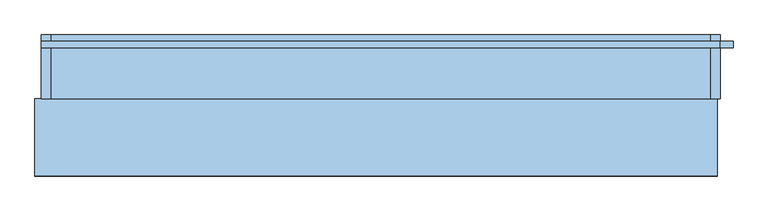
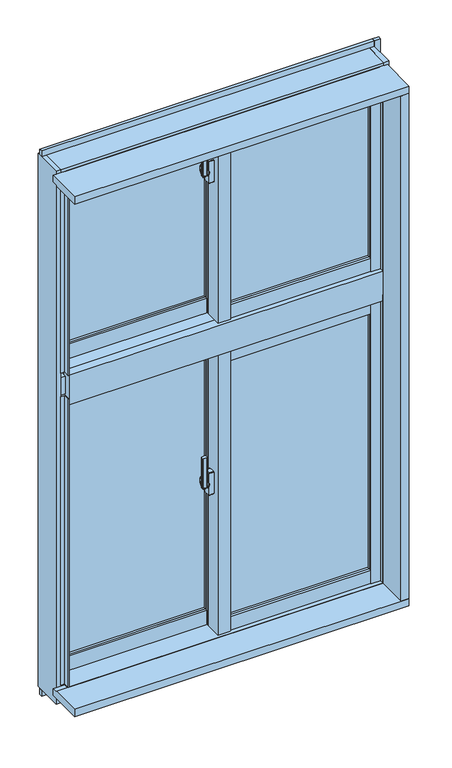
"""IFC4 building model written with IfcOpenShell, lengths in millimetres: window geometry, FNSⅡ100R_非防火_面付枠_段窓 : たてすべりだし/FIX."""

from ifc_helpers import new_model, si_unit, point, frame, frame_2d, origin, place, context, project, spatial, polyline, circle_curve, trimmed, segment, composite_curve, outline, extrude, faceted_brep, source, transform, mapped, element, save
from ifc_brep_helpers import plane_surface, cylinder_surface, revolved_surface, advanced_brep


def window_0b9b19ba(model_context):
    return source(origin(), model_context, "Body", "SolidModel", [
        extrude(outline(composite_curve([segment(polyline([(-39.0, 34.6), (-39.0, 26.4)]), True, "CONTINUOUS"), segment(trimmed(circle_curve(frame_2d((-41.0, 26.4)), 2.0), [point((-39.0, 26.4))], [point((-41.3606557, 24.4327869))], False, "CARTESIAN"), True, "CONTINUOUS"), segment(polyline([(-41.3606557, 24.4327869), (-52.3606557, 26.4494536)]), True, "CONTINUOUS"), segment(trimmed(circle_curve(frame_2d((-52.0, 28.4166667)), 2.0), [point((-52.3606557, 26.4494536))], [point((-54.0, 28.4166667))], False, "CARTESIAN"), True, "CONTINUOUS"), segment(polyline([(-54.0, 28.4166667), (-54.0, 32.5833333)]), True, "CONTINUOUS"), segment(trimmed(circle_curve(frame_2d((-52.0, 32.5833333)), 2.0), [point((-54.0, 32.5833333))], [point((-52.3606557, 34.5505464))], False, "CARTESIAN"), True, "CONTINUOUS"), segment(polyline([(-52.3606557, 34.5505464), (-41.3606557, 36.5672131)]), True, "CONTINUOUS"), segment(trimmed(circle_curve(frame_2d((-41.0, 34.6)), 2.0), [point((-41.3606557, 36.5672131))], [point((-39.0, 34.6))], False, "CARTESIAN"), True, "CONTINUOUS")], self_intersect=False)), frame((0.0, 0.0, 2440.0), z_axis=(0.0, 0.0, 1.0), x_axis=(1.0, 0.0, 0.0)), (0.0, 0.0, 1.0), 100.0),
        advanced_brep(
        [(-37.5, 38.8234285, 2471.7333311), (-45.5, 38.8234285, 2471.7333311), (-45.5, 38.4351999, 2470.2844424), (-39.0, 38.4351999, 2470.2844424), (-39.0, 36.6234666, 2463.5229616), (-37.5, 36.6234666, 2463.5229616), (-39.0, 36.6466117, 2429.3190372), (-45.5, 36.6466117, 2429.3190372), (-45.5, 36.907084, 2427.8418256), (-37.5, 36.907084, 2427.8418256), (-37.5, 35.4310745, 2436.2126915), (-39.0, 35.4310745, 2436.2126915)],
        [
            (0, 1),
            (1, 2),
            (2, 3),
            (3, 4),
            (4, 5),
            (5, 0),
            (6, 7),
            (7, 8),
            (8, 9),
            (9, 10),
            (10, 11),
            (11, 6),
            (0, 9, circle_curve(frame((-37.5, 33.0, 2450.0), z_axis=(-1.0, 0.0, 0.0), x_axis=(0.0, 0.25881904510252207, 0.965925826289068)), 22.5)),
            (8, 1, circle_curve(frame((-45.5, 33.0, 2450.0), z_axis=(1.0, 0.0, 0.0), x_axis=(0.0, 0.25881904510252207, 0.965925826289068)), 22.5)),
            (7, 2, circle_curve(frame((-45.5, 33.0, 2450.0), z_axis=(1.0, 0.0, 0.0), x_axis=(0.0, 0.25881904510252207, 0.965925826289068)), 21.0)),
            (6, 3, circle_curve(frame((-39.0, 33.0, 2450.0), z_axis=(1.0, 0.0, 0.0), x_axis=(0.0, 0.25881904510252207, 0.965925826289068)), 21.0)),
            (11, 4, circle_curve(frame((-39.0, 33.0, 2450.0), z_axis=(-1.0, 0.0, 0.0), x_axis=(0.0, -1.0, 0.0)), 14.0)),
            (5, 10, circle_curve(frame((-37.5, 33.0, 2450.0), z_axis=(1.0, 0.0, 0.0), x_axis=(0.0, -1.0, 0.0)), 14.0)),
        ],
        [
            plane_surface(frame((-43.5470497, 33.0, 2450.0), z_axis=(0.0, -0.965925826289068, 0.25881904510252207), x_axis=(0.0, 0.25881904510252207, 0.965925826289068))),
            plane_surface(frame((-43.5470497, 33.0, 2450.0), z_axis=(0.0, -0.9848077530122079, -0.17364817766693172), x_axis=(0.0, 0.17364817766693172, -0.9848077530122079))),
            cylinder_surface(frame((-43.5470497, 33.0, 2450.0), z_axis=(-1.0, 0.0, 0.0), x_axis=(0.0, 0.25881904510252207, 0.965925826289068)), 22.5),
            plane_surface(frame((-45.5, 33.0, 2450.0), z_axis=(-1.0, 0.0, 0.0), x_axis=(0.0, 0.25881904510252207, 0.965925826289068))),
            revolved_surface(polyline([(-45.5, 38.43519994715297, 2470.2844423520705), (-39.0, 38.43519994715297, 2470.2844423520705)]), (-43.5470497, 33.0, 2450.0), (-1.0, 0.0, 0.0)),
            plane_surface(frame((-39.0, 33.0, 2450.0), z_axis=(-1.0, 0.0, 0.0), x_axis=(0.0, 0.25881904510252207, 0.965925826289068))),
            plane_surface(frame((-37.5, 33.0, 2450.0), z_axis=(1.0, 0.0, 0.0), x_axis=(0.0, 0.25881904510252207, 0.965925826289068))),
            cylinder_surface(frame((-37.5, 33.0, 2450.0), z_axis=(-1.0, 0.0, 0.0), x_axis=(0.0, -1.0, 0.0)), 14.0),
        ],
        [
            (0, [[1, 2, 3, 4, 5, 6]]),
            (1, [[7, 8, 9, 10, 11, 12]]),
            (2, [[-1, 13, -9, 14]]),
            (3, [[-2, -14, -8, 15]]),
            (4, [[-3, -15, -7, 16]]),
            (5, [[-16, -12, 17, -4]]),
            (6, [[-13, -6, 18, -10]]),
            (7, [[-17, -11, -18, -5]]),
        ],
    ),
        extrude(outline(composite_curve([segment(trimmed(circle_curve(frame_2d((33.0, 2450.0)), 11.5), [point((44.5, 2450.0))], [point((21.5, 2450.0))], False, "CARTESIAN"), True, "CONTINUOUS"), segment(trimmed(circle_curve(frame_2d((33.0, 2450.0)), 11.5), [point((21.5, 2450.0))], [point((44.5, 2450.0))], False, "CARTESIAN"), True, "CONTINUOUS")], self_intersect=False)), frame((-37.5, 0.0, 0.0), z_axis=(1.0, 0.0, 0.0), x_axis=(0.0, 1.0, 0.0)), (0.0, 0.0, 1.0), 2.5),
        extrude(outline(composite_curve([segment(polyline([(24.0, 2487.5), (42.0, 2487.5)]), True, "CONTINUOUS"), segment(trimmed(circle_curve(frame_2d((42.0, 2485.5)), 2.0), [point((42.0, 2487.5))], [point((44.0, 2485.5))], False, "CARTESIAN"), True, "CONTINUOUS"), segment(polyline([(44.0, 2485.5), (44.0, 2414.5)]), True, "CONTINUOUS"), segment(trimmed(circle_curve(frame_2d((42.0, 2414.5)), 2.0), [point((44.0, 2414.5))], [point((42.0, 2412.5))], False, "CARTESIAN"), True, "CONTINUOUS"), segment(polyline([(42.0, 2412.5), (24.0, 2412.5)]), True, "CONTINUOUS"), segment(trimmed(circle_curve(frame_2d((24.0, 2414.5)), 2.0), [point((24.0, 2412.5))], [point((22.0, 2414.5))], False, "CARTESIAN"), True, "CONTINUOUS"), segment(polyline([(22.0, 2414.5), (22.0, 2485.5)]), True, "CONTINUOUS"), segment(trimmed(circle_curve(frame_2d((24.0, 2485.5)), 2.0), [point((22.0, 2485.5))], [point((24.0, 2487.5))], False, "CARTESIAN"), True, "CONTINUOUS")], self_intersect=False)), frame((-35.0, 0.0, 0.0), z_axis=(1.0, 0.0, 0.0), x_axis=(0.0, 1.0, 0.0)), (0.0, 0.0, 1.0), 15.0),
        extrude(outline(polyline([(20.0, 24.0), (468.0, 24.0), (468.0, 18.0), (20.0, 18.0), (20.0, 24.0)])), frame((0.0, 0.0, 1998.0), z_axis=(0.0, 0.0, 1.0), x_axis=(1.0, 0.0, 0.0)), (0.0, 0.0, 1.0), 562.0),
        extrude(outline(polyline([(20.0, 42.0), (468.0, 42.0), (468.0, 36.0), (20.0, 36.0), (20.0, 42.0)])), frame((0.0, 0.0, 1998.0), z_axis=(0.0, 0.0, 1.0), x_axis=(1.0, 0.0, 0.0)), (0.0, 0.0, 1.0), 562.0),
        extrude(outline(polyline([(-468.0, 82.0), (-20.0, 82.0), (-20.0, 76.0), (-468.0, 76.0), (-468.0, 82.0)])), frame((0.0, 0.0, 1998.0), z_axis=(0.0, 0.0, 1.0), x_axis=(1.0, 0.0, 0.0)), (0.0, 0.0, 1.0), 562.0),
        extrude(outline(polyline([(-468.0, 100.0), (-20.0, 100.0), (-20.0, 94.0), (-468.0, 94.0), (-468.0, 100.0)])), frame((0.0, 0.0, 1998.0), z_axis=(0.0, 0.0, 1.0), x_axis=(1.0, 0.0, 0.0)), (0.0, 0.0, 1.0), 562.0),
        faceted_brep([(-500.0, 79.0, 2600.0), (-489.5, 79.0, 2600.0), (-489.5, 66.0, 2600.0), (-468.0, 66.0, 2600.0), (-468.0, 108.0, 2600.0), (-500.0, 108.0, 2600.0), (-468.0, 79.0, 1910.0), (-500.0, 79.0, 1910.0), (-500.0, 108.0, 1910.0), (-468.0, 108.0, 1910.0), (-468.0, 79.0, 1950.0), (-489.5, 79.0, 1950.0), (-489.5, 66.0, 1950.0), (-468.0, 66.0, 1950.0)], [[[0, 1, 2, 3, 4, 5]], [[6, 7, 8, 9]], [[1, 0, 7, 6, 10, 11]], [[2, 1, 11, 12]], [[3, 2, 12, 13]], [[4, 3, 13, 10, 6, 9]], [[5, 4, 9, 8]], [[7, 0, 5, 8]], [[11, 10, 13, 12]]]),
        faceted_brep([(-20.0, 65.5, 2600.0), (-1.8, 65.5, 2600.0), (-1.8, 53.1, 2600.0), (20.0, 53.1, 2600.0), (20.0, 108.0, 2600.0), (-20.0, 108.0, 2600.0), (-20.0, 108.0, 1910.0), (20.0, 108.0, 1910.0), (20.0, 79.0, 1910.0), (-20.0, 79.0, 1910.0), (-20.0, 65.5, 1950.0), (-1.8, 65.5, 1950.0), (-1.8, 53.1, 1950.0), (20.0, 53.1, 1950.0), (20.0, 79.0, 1950.0), (-20.0, 79.0, 1950.0)], [[[0, 1, 2, 3, 4, 5]], [[6, 7, 8, 9]], [[1, 0, 10, 11]], [[2, 1, 11, 12]], [[3, 2, 12, 13]], [[4, 3, 13, 14, 8, 7]], [[5, 4, 7, 6]], [[0, 5, 6, 9, 15, 10]], [[14, 15, 9, 8]], [[15, 14, 13, 12, 11, 10]]]),
        extrude(outline(polyline([(-20.0, 53.1), (-15.0, 53.1), (-15.0, 8.0), (15.0, 8.0), (15.0, 12.0), (20.0, 12.0), (20.0, 0.0), (-20.0, 0.0), (-20.0, 53.1)])), frame((0.0, 0.0, 1950.0), z_axis=(0.0, 0.0, 1.0), x_axis=(1.0, 0.0, 0.0)), (0.0, 0.0, 1.0), 650.0),
        extrude(outline(polyline([(-15.0, 53.1), (20.0, 53.1), (20.0, 12.0), (15.0, 12.0), (15.0, 8.0), (-15.0, 8.0), (-15.0, 53.1)])), frame((0.0, 0.0, 1950.0), z_axis=(0.0, 0.0, 1.0), x_axis=(1.0, 0.0, 0.0)), (0.0, 0.0, 1.0), 650.0),
        extrude(outline(polyline([(468.0, 0.0), (468.0, 8.0), (489.5, 8.0), (489.5, 21.0), (497.0, 21.0), (497.0, 0.0), (468.0, 0.0)])), frame((0.0, 0.0, 1953.0), z_axis=(0.0, 0.0, 1.0), x_axis=(1.0, 0.0, 0.0)), (0.0, 0.0, 1.0), 647.0),
        extrude(outline(polyline([(468.0, 50.0), (500.0, 50.0), (500.0, 21.0), (489.5, 21.0), (489.5, 8.0), (468.0, 8.0), (468.0, 50.0)])), frame((0.0, 0.0, 1950.0), z_axis=(0.0, 0.0, 1.0), x_axis=(1.0, 0.0, 0.0)), (0.0, 0.0, 1.0), 650.0),
        extrude(outline(polyline([(-1.85, 65.5), (-1.85, 58.0), (-20.0, 58.0), (-20.0, 65.5), (-1.85, 65.5)])), frame((0.0, 0.0, 1950.0), z_axis=(0.0, 0.0, 1.0), x_axis=(1.0, 0.0, 0.0)), (0.0, 0.0, 1.0), 650.0),
        extrude(outline(polyline([(-497.0, 79.0), (-489.5, 79.0), (-489.5, 66.0), (-468.0, 66.0), (-468.0, 58.0), (-497.0, 58.0), (-497.0, 79.0)])), frame((0.0, 0.0, 1950.0), z_axis=(0.0, 0.0, 1.0), x_axis=(1.0, 0.0, 0.0)), (0.0, 0.0, 1.0), 650.0),
        extrude(outline(polyline([(2.0, 1953.0), (2.0, 1998.0), (10.0, 1998.0), (10.0, 1975.5), (21.0, 1975.5), (21.0, 1953.0), (2.0, 1953.0)])), frame((20.0, 0.0, 0.0), z_axis=(1.0, 0.0, 0.0), x_axis=(0.0, 1.0, 0.0)), (0.0, 0.0, 1.0), 448.0),
        extrude(outline(polyline([(50.0, 1950.0), (21.0, 1950.0), (21.0, 1975.5), (10.0, 1975.5), (10.0, 1998.0), (50.0, 1998.0), (50.0, 1950.0)])), frame((20.0, 0.0, 0.0), z_axis=(1.0, 0.0, 0.0), x_axis=(0.0, 1.0, 0.0)), (0.0, 0.0, 1.0), 448.0),
        extrude(outline(polyline([(60.0, 1998.0), (68.0, 1998.0), (68.0, 1975.5), (79.0, 1975.5), (79.0, 1950.0), (60.0, 1950.0), (60.0, 1998.0)])), frame((-468.0, 0.0, 0.0), z_axis=(1.0, 0.0, 0.0), x_axis=(0.0, 1.0, 0.0)), (0.0, 0.0, 1.0), 448.0),
        extrude(outline(polyline([(108.0, 1910.0), (79.0, 1910.0), (79.0, 1975.5), (68.0, 1975.5), (68.0, 1998.0), (108.0, 1998.0), (108.0, 1910.0)])), frame((-468.0, 0.0, 0.0), z_axis=(1.0, 0.0, 0.0), x_axis=(0.0, 1.0, 0.0)), (0.0, 0.0, 1.0), 448.0),
        extrude(outline(polyline([(23.0, 2580.5), (10.0, 2580.5), (10.0, 2560.0), (2.0, 2560.0), (2.0, 2600.0), (23.0, 2600.0), (23.0, 2580.5)])), frame((20.0, 0.0, 0.0), z_axis=(1.0, 0.0, 0.0), x_axis=(0.0, 1.0, 0.0)), (0.0, 0.0, 1.0), 448.0),
        extrude(outline(polyline([(50.0, 2600.0), (50.0, 2560.0), (10.0, 2560.0), (10.0, 2580.5), (23.0, 2580.5), (23.0, 2600.0), (50.0, 2600.0)])), frame((20.0, 0.0, 0.0), z_axis=(1.0, 0.0, 0.0), x_axis=(0.0, 1.0, 0.0)), (0.0, 0.0, 1.0), 448.0),
        extrude(outline(polyline([(81.0, 2580.5), (68.0, 2580.5), (68.0, 2560.0), (60.0, 2560.0), (60.0, 2600.0), (81.0, 2600.0), (81.0, 2580.5)])), frame((-468.0, 0.0, 0.0), z_axis=(1.0, 0.0, 0.0), x_axis=(0.0, 1.0, 0.0)), (0.0, 0.0, 1.0), 448.0),
        extrude(outline(polyline([(108.0, 2600.0), (108.0, 2560.0), (68.0, 2560.0), (68.0, 2580.5), (81.0, 2580.5), (81.0, 2600.0), (108.0, 2600.0)])), frame((-468.0, 0.0, 0.0), z_axis=(1.0, 0.0, 0.0), x_axis=(0.0, 1.0, 0.0)), (0.0, 0.0, 1.0), 448.0),
        faceted_brep([(500.0, -10.0, 900.0), (500.0, 14.5, 900.0), (515.0, 14.5, 900.0), (515.0, 10.0, 900.0), (503.0, 10.0, 900.0), (503.0, -10.0, 900.0), (515.0, 14.5, 1870.0), (515.0, 10.0, 1870.0), (500.0, -10.0, 1870.0), (500.0, 14.5, 1870.0), (503.0, 10.0, 1870.0), (503.0, -10.0, 1870.0)], [[[0, 1, 2, 3, 4, 5]], [[3, 2, 6, 7]], [[1, 0, 8, 9]], [[2, 1, 9, 6]], [[4, 3, 7, 10]], [[5, 4, 10, 11]], [[0, 5, 11, 8]], [[8, 11, 10, 7, 6, 9]]]),
        faceted_brep([(515.0, 14.5, 2620.0), (515.0, 10.0, 2620.0), (515.0, 10.0, 1950.0), (515.0, 14.5, 1950.0), (503.0, -10.0, 1950.0), (500.0, -10.0, 1950.0), (500.0, 14.5, 1950.0), (503.0, 10.0, 1950.0), (500.0, 10.0, 2620.0), (500.0, 14.5, 2620.0), (500.0, -10.0, 2603.0), (500.0, 10.0, 2603.0), (503.0, 10.0, 2603.0), (503.0, -10.0, 2603.0)], [[[0, 1, 2, 3]], [[4, 5, 6, 3, 2, 7]], [[8, 9, 6, 5, 10, 11]], [[9, 0, 3, 6]], [[11, 12, 7, 2, 1, 8]], [[12, 13, 4, 7]], [[13, 10, 5, 4]], [[1, 0, 9, 8]], [[12, 11, 10, 13]]]),
        faceted_brep([(515.0, 110.0, 840.0), (515.0, 110.0, 849.0), (515.0, 76.0, 849.0), (515.0, 76.0, 884.0), (515.0, 10.0, 884.0), (515.0, 10.0, 840.0), (-515.0, 110.0, 840.0), (-515.0, 10.0, 840.0), (-515.0, 10.0, 884.0), (-515.0, 76.0, 884.0), (-515.0, 76.0, 849.0), (-515.0, 110.0, 849.0), (500.0, 37.25, 884.0), (500.0, 18.8, 884.0), (-15.0, 18.8, 884.0), (-15.0, 37.25, 884.0), (500.0, 18.8, 900.0), (500.0, 37.25, 900.0), (-15.0, 18.8, 900.0), (-15.0, 37.25, 900.0)], [[[0, 1, 2, 3, 4, 5]], [[6, 7, 8, 9, 10, 11]], [[1, 0, 6, 11]], [[2, 1, 11, 10]], [[3, 2, 10, 9]], [[4, 3, 9, 8], [12, 13, 14, 15]], [[5, 4, 8, 7]], [[0, 5, 7, 6]], [[16, 13, 12, 17]], [[13, 16, 18, 14]], [[18, 19, 15, 14]], [[17, 12, 15, 19]], [[16, 17, 19, 18]]]),
        faceted_brep([(500.0, 37.25, 1950.0), (500.0, 37.25, 1934.0), (-15.0, 37.25, 1934.0), (-15.0, 37.25, 1950.0), (500.0, 18.8, 1950.0), (500.0, 18.8, 1934.0), (-15.0, 18.8, 1950.0), (-15.0, 18.8, 1934.0)], [[[0, 1, 2, 3]], [[4, 5, 1, 0]], [[6, 3, 2, 7]], [[5, 4, 6, 7]], [[1, 5, 7, 2]], [[4, 0, 3, 6]]]),
        faceted_brep([(-500.0, -10.0, 900.0), (-500.0, 76.0, 900.0), (-500.0, 76.0, 1870.0), (-500.0, -10.0, 1870.0), (-515.0, 10.0, 900.0), (-515.0, 76.0, 900.0), (-503.0, -10.0, 900.0), (-503.0, 10.0, 900.0), (-515.0, 10.0, 1870.0), (-515.0, 76.0, 1870.0), (-503.0, -10.0, 1870.0), (-503.0, 10.0, 1870.0)], [[[0, 1, 2, 3]], [[4, 5, 1, 0, 6, 7]], [[5, 4, 8, 9]], [[1, 5, 9, 2]], [[6, 0, 3, 10]], [[7, 6, 10, 11]], [[4, 7, 11, 8]], [[8, 11, 10, 3, 2, 9]]]),
        faceted_brep([(-500.0, 76.0, 2620.0), (-500.0, 10.0, 2620.0), (-500.0, 10.0, 2603.0), (-500.0, -10.0, 2603.0), (-500.0, -10.0, 1950.0), (-500.0, 76.0, 1950.0), (-503.0, 10.0, 1950.0), (-515.0, 10.0, 1950.0), (-515.0, 76.0, 1950.0), (-503.0, -10.0, 1950.0), (-515.0, 10.0, 2620.0), (-515.0, 76.0, 2620.0), (-503.0, -10.0, 2603.0), (-503.0, 10.0, 2603.0)], [[[0, 1, 2, 3, 4, 5]], [[6, 7, 8, 5, 4, 9]], [[10, 11, 8, 7]], [[11, 0, 5, 8]], [[3, 12, 9, 4]], [[12, 13, 6, 9]], [[13, 2, 1, 10, 7, 6]], [[0, 11, 10, 1]], [[2, 13, 12, 3]]]),
        faceted_brep([(-500.0, 110.0, 2600.0), (-500.0, 76.0, 2600.0), (-500.0, 76.0, 1899.0), (-500.0, 110.0, 1899.0), (-515.0, 76.0, 2600.0), (-515.0, 76.0, 1899.0), (-530.0, 10.0, 2635.0), (-530.0, 110.0, 2635.0), (-530.0, 110.0, 840.0), (-530.0, 10.0, 840.0), (-500.0, 110.0, 1850.0), (-515.0, 110.0, 1850.0), (-515.0, 76.0, 1850.0), (-500.0, 76.0, 1850.0), (-515.0, 110.0, 2600.0), (-515.0, 110.0, 840.0), (-515.0, 10.0, 840.0), (-515.0, 110.0, 2635.0), (-515.0, 110.0, 1899.0), (-500.0, 110.0, 849.0), (-515.0, 110.0, 849.0), (-515.0, 10.0, 2635.0), (-515.0, 76.0, 849.0), (-500.0, 76.0, 849.0)], [[[0, 1, 2, 3]], [[1, 4, 5, 2]], [[6, 7, 8, 9]], [[10, 11, 12, 13]], [[0, 14, 4, 1]], [[8, 15, 16, 9]], [[7, 17, 14, 0, 3, 18, 11, 10, 19, 20, 15, 8]], [[17, 21, 16, 15, 20, 22, 12, 11, 18, 5, 4, 14]], [[21, 6, 9, 16]], [[19, 23, 22, 20]], [[13, 12, 22, 23]], [[10, 13, 23, 19]], [[7, 6, 21, 17]], [[3, 2, 5, 18]]]),
        faceted_brep([(515.0, 10.0, 2635.0), (515.0, 110.0, 2635.0), (515.0, 110.0, 2600.0), (515.0, 14.5, 2600.0), (515.0, 14.5, 1899.0), (515.0, 110.0, 1899.0), (515.0, 110.0, 1850.0), (515.0, 14.5, 1850.0), (515.0, 14.5, 849.0), (515.0, 110.0, 849.0), (515.0, 110.0, 840.0), (515.0, 10.0, 840.0), (500.0, 14.5, 1850.0), (500.0, 110.0, 1850.0), (500.0, 14.5, 2600.0), (500.0, 110.0, 2600.0), (500.0, 14.5, 1899.0), (500.0, 110.0, 1899.0), (530.0, 110.0, 840.0), (530.0, 10.0, 840.0), (530.0, 110.0, 2635.0), (500.0, 110.0, 849.0), (530.0, 10.0, 2635.0), (500.0, 14.5, 849.0)], [[[0, 1, 2, 3, 4, 5, 6, 7, 8, 9, 10, 11]], [[12, 7, 6, 13]], [[14, 3, 2, 15]], [[3, 14, 16, 4]], [[14, 15, 17, 16]], [[11, 10, 18, 19]], [[1, 20, 18, 10, 9, 21, 13, 6, 5, 17, 15, 2]], [[20, 22, 19, 18]], [[22, 0, 11, 19]], [[23, 21, 9, 8]], [[12, 13, 21, 23]], [[7, 12, 23, 8]], [[0, 22, 20, 1]], [[16, 17, 5, 4]]]),
        faceted_brep([(-503.0, 10.0, 884.0), (-503.0, 10.0, 897.0), (-503.0, -10.0, 897.0), (-503.0, -10.0, 900.0), (-503.0, 18.8, 900.0), (-503.0, 18.8, 884.0), (503.0, -10.0, 900.0), (503.0, -10.0, 897.0), (503.0, 10.0, 897.0), (503.0, 10.0, 884.0), (503.0, 14.5, 884.0), (503.0, 14.5, 900.0), (500.0, 14.5, 900.0), (500.0, 18.8, 900.0), (-15.0, 18.8, 900.0), (-15.0, 76.0, 900.0), (-500.0, 76.0, 900.0), (-500.0, 18.8, 900.0), (-500.0, 18.8, 884.0), (500.0, 18.8, 884.0), (-15.0, 18.8, 884.0), (-500.0, 76.0, 884.0), (-15.0, 76.0, 884.0), (500.0, 14.5, 884.0)], [[[0, 1, 2, 3, 4, 5]], [[6, 7, 8, 9, 10, 11]], [[9, 8, 1, 0]], [[8, 7, 2, 1]], [[7, 6, 3, 2]], [[4, 3, 6, 11, 12, 13, 14, 15, 16, 17]], [[5, 4, 17, 18]], [[13, 19, 20, 14]], [[0, 5, 18, 21, 22, 20, 19, 23, 10, 9]], [[12, 23, 19, 13]], [[23, 12, 11, 10]], [[15, 14, 20, 22]], [[16, 21, 18, 17]], [[15, 22, 21, 16]]]),
        faceted_brep([(500.0, 31.9, 2600.0), (500.0, 31.9, 2625.0), (500.0, 10.0, 2625.0), (500.0, 10.0, 2603.0), (500.0, -10.0, 2603.0), (500.0, -10.0, 2600.0), (-500.0, 31.9, 2600.0), (-500.0, -10.0, 2600.0), (-500.0, -10.0, 2603.0), (-500.0, 10.0, 2603.0), (-500.0, 10.0, 2625.0), (-500.0, 31.9, 2625.0)], [[[0, 1, 2, 3, 4, 5]], [[6, 7, 8, 9, 10, 11]], [[1, 0, 6, 11]], [[2, 1, 11, 10]], [[3, 2, 10, 9]], [[4, 3, 9, 8]], [[5, 4, 8, 7]], [[0, 5, 7, 6]]]),
        faceted_brep([(500.0, 31.9, 1875.0), (500.0, 10.0, 1875.0), (500.0, 10.0, 1934.0), (500.0, 18.8, 1934.0), (500.0, 18.8, 1950.0), (500.0, -10.0, 1950.0), (500.0, -10.0, 1870.0), (500.0, -10.0, 1850.0), (500.0, 31.9, 1850.0), (500.0, 31.9, 1870.0), (-500.0, 31.9, 1850.0), (-500.0, -10.0, 1850.0), (-500.0, -10.0, 1870.0), (-500.0, -10.0, 1950.0), (-500.0, 18.8, 1950.0), (-500.0, 18.8, 1934.0), (-500.0, 10.0, 1934.0), (-500.0, 10.0, 1875.0), (-500.0, 31.9, 1875.0), (-500.0, 31.9, 1870.0)], [[[0, 1, 2, 3, 4, 5, 6, 7, 8, 9]], [[10, 11, 12, 13, 14, 15, 16, 17, 18, 19]], [[8, 10, 19, 18, 0, 9]], [[1, 0, 18, 17]], [[5, 13, 12, 11, 7, 6]], [[8, 7, 11, 10]], [[2, 1, 17, 16]], [[3, 2, 16, 15]], [[4, 3, 15, 14]], [[5, 4, 14, 13]]]),
        extrude(outline(polyline([(-15.0, 80.3), (-15.0, 31.9), (-500.0, 31.9), (-500.0, 80.3), (-15.0, 80.3)])), frame((0.0, 0.0, 2600.0), z_axis=(0.0, 0.0, 1.0), x_axis=(1.0, 0.0, 0.0)), (0.0, 0.0, 1.0), 25.0),
        extrude(outline(polyline([(-15.0, 76.0), (-15.0, 18.8), (-500.0, 18.8), (-500.0, 76.0), (-15.0, 76.0)])), frame((0.0, 0.0, 1934.0), z_axis=(0.0, 0.0, 1.0), x_axis=(1.0, 0.0, 0.0)), (0.0, 0.0, 1.0), 16.0),
        extrude(outline(polyline([(-15.0, 80.3), (-15.0, 31.9), (-500.0, 31.9), (-500.0, 80.3), (-15.0, 80.3)])), frame((0.0, 0.0, 1850.0), z_axis=(0.0, 0.0, 1.0), x_axis=(1.0, 0.0, 0.0)), (0.0, 0.0, 1.0), 25.0),
        faceted_brep([(515.0, 110.0, 2600.0), (515.0, 110.0, 2635.0), (515.0, 10.0, 2635.0), (515.0, 10.0, 2625.0), (515.0, 80.3, 2625.0), (515.0, 80.3, 2600.0), (-515.0, 110.0, 2600.0), (-515.0, 80.3, 2600.0), (-515.0, 80.3, 2625.0), (-515.0, 10.0, 2625.0), (-515.0, 10.0, 2635.0), (-515.0, 110.0, 2635.0), (-15.0, 80.3, 2625.0), (-15.0, 31.9, 2625.0), (500.0, 31.9, 2625.0), (500.0, 80.3, 2625.0), (500.0, 80.3, 2600.0), (-15.0, 80.3, 2600.0), (500.0, 31.9, 2600.0), (-15.0, 31.9, 2600.0)], [[[0, 1, 2, 3, 4, 5]], [[6, 7, 8, 9, 10, 11]], [[1, 0, 6, 11]], [[2, 1, 11, 10]], [[3, 2, 10, 9]], [[4, 3, 9, 8, 12, 13, 14, 15]], [[5, 4, 15, 16]], [[8, 7, 17, 12]], [[0, 5, 16, 18, 19, 17, 7, 6]], [[14, 18, 16, 15]], [[17, 19, 13, 12]], [[18, 14, 13, 19]]]),
        faceted_brep([(515.0, 110.0, 1850.0), (515.0, 110.0, 1899.0), (515.0, 76.0, 1899.0), (515.0, 76.0, 1934.0), (515.0, 10.0, 1934.0), (515.0, 10.0, 1875.0), (515.0, 80.3, 1875.0), (515.0, 80.3, 1850.0), (-515.0, 110.0, 1850.0), (-515.0, 80.3, 1850.0), (-515.0, 80.3, 1875.0), (-515.0, 10.0, 1875.0), (-515.0, 10.0, 1934.0), (-515.0, 76.0, 1934.0), (-515.0, 76.0, 1899.0), (-515.0, 110.0, 1899.0), (500.0, 31.9, 1850.0), (500.0, 80.3, 1850.0), (500.0, 80.3, 1870.0), (500.0, 80.3, 1875.0), (500.0, 31.9, 1875.0), (500.0, 31.9, 1870.0), (-15.0, 80.3, 1850.0), (-15.0, 31.9, 1850.0), (-15.0, 31.9, 1875.0), (-15.0, 80.3, 1875.0)], [[[0, 1, 2, 3, 4, 5, 6, 7]], [[8, 9, 10, 11, 12, 13, 14, 15]], [[16, 17, 18, 19, 20, 21]], [[22, 23, 24, 25]], [[1, 0, 8, 15]], [[2, 1, 15, 14]], [[3, 2, 14, 13]], [[4, 3, 13, 12]], [[5, 4, 12, 11]], [[6, 5, 11, 10, 25, 24, 20, 19]], [[7, 6, 19, 18, 17]], [[10, 9, 22, 25]], [[0, 7, 17, 16, 23, 22, 9, 8]], [[24, 23, 16, 21, 20]]]),
        extrude(outline(composite_curve([segment(polyline([(-39.0, 34.6), (-39.0, 26.4)]), True, "CONTINUOUS"), segment(trimmed(circle_curve(frame_2d((-41.0, 26.4)), 2.0), [point((-39.0, 26.4))], [point((-41.3606557, 24.4327869))], False, "CARTESIAN"), True, "CONTINUOUS"), segment(polyline([(-41.3606557, 24.4327869), (-52.3606557, 26.4494536)]), True, "CONTINUOUS"), segment(trimmed(circle_curve(frame_2d((-52.0, 28.4166667)), 2.0), [point((-52.3606557, 26.4494536))], [point((-54.0, 28.4166667))], False, "CARTESIAN"), True, "CONTINUOUS"), segment(polyline([(-54.0, 28.4166667), (-54.0, 32.5833333)]), True, "CONTINUOUS"), segment(trimmed(circle_curve(frame_2d((-52.0, 32.5833333)), 2.0), [point((-54.0, 32.5833333))], [point((-52.3606557, 34.5505464))], False, "CARTESIAN"), True, "CONTINUOUS"), segment(polyline([(-52.3606557, 34.5505464), (-41.3606557, 36.5672131)]), True, "CONTINUOUS"), segment(trimmed(circle_curve(frame_2d((-41.0, 34.6)), 2.0), [point((-41.3606557, 36.5672131))], [point((-39.0, 34.6))], False, "CARTESIAN"), True, "CONTINUOUS")], self_intersect=False)), frame((0.0, 0.0, 1390.0), z_axis=(0.0, 0.0, 1.0), x_axis=(1.0, 0.0, 0.0)), (0.0, 0.0, 1.0), 100.0),
        advanced_brep(
        [(-37.5, 38.8234285, 1421.7333311), (-45.5, 38.8234285, 1421.7333311), (-45.5, 38.4351999, 1420.2844424), (-39.0, 38.4351999, 1420.2844424), (-39.0, 36.6234666, 1413.5229616), (-37.5, 36.6234666, 1413.5229616), (-39.0, 36.6466117, 1379.3190372), (-45.5, 36.6466117, 1379.3190372), (-45.5, 36.907084, 1377.8418256), (-37.5, 36.907084, 1377.8418256), (-37.5, 35.4310745, 1386.2126915), (-39.0, 35.4310745, 1386.2126915)],
        [
            (0, 1),
            (1, 2),
            (2, 3),
            (3, 4),
            (4, 5),
            (5, 0),
            (6, 7),
            (7, 8),
            (8, 9),
            (9, 10),
            (10, 11),
            (11, 6),
            (0, 9, circle_curve(frame((-37.5, 33.0, 1400.0), z_axis=(-1.0, 0.0, 0.0), x_axis=(0.0, 0.25881904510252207, 0.965925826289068)), 22.5)),
            (8, 1, circle_curve(frame((-45.5, 33.0, 1400.0), z_axis=(1.0, 0.0, 0.0), x_axis=(0.0, 0.25881904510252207, 0.965925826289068)), 22.5)),
            (7, 2, circle_curve(frame((-45.5, 33.0, 1400.0), z_axis=(1.0, 0.0, 0.0), x_axis=(0.0, 0.25881904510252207, 0.965925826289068)), 21.0)),
            (6, 3, circle_curve(frame((-39.0, 33.0, 1400.0), z_axis=(1.0, 0.0, 0.0), x_axis=(0.0, 0.25881904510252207, 0.965925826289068)), 21.0)),
            (11, 4, circle_curve(frame((-39.0, 33.0, 1400.0), z_axis=(-1.0, 0.0, 0.0), x_axis=(0.0, -1.0, 0.0)), 14.0)),
            (5, 10, circle_curve(frame((-37.5, 33.0, 1400.0), z_axis=(1.0, 0.0, 0.0), x_axis=(0.0, -1.0, 0.0)), 14.0)),
        ],
        [
            plane_surface(frame((-43.5470497, 33.0, 1400.0), z_axis=(0.0, -0.965925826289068, 0.25881904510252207), x_axis=(0.0, 0.25881904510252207, 0.965925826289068))),
            plane_surface(frame((-43.5470497, 33.0, 1400.0), z_axis=(0.0, -0.9848077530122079, -0.17364817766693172), x_axis=(0.0, 0.17364817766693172, -0.9848077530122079))),
            cylinder_surface(frame((-43.5470497, 33.0, 1400.0), z_axis=(-1.0, 0.0, 0.0), x_axis=(0.0, 0.25881904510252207, 0.965925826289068)), 22.5),
            plane_surface(frame((-45.5, 33.0, 1400.0), z_axis=(-1.0, 0.0, 0.0), x_axis=(0.0, 0.25881904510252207, 0.965925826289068))),
            revolved_surface(polyline([(-45.5, 38.43519994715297, 1420.2844423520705), (-39.0, 38.43519994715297, 1420.2844423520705)]), (-43.5470497, 33.0, 1400.0), (-1.0, 0.0, 0.0)),
            plane_surface(frame((-39.0, 33.0, 1400.0), z_axis=(-1.0, 0.0, 0.0), x_axis=(0.0, 0.25881904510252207, 0.965925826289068))),
            plane_surface(frame((-37.5, 33.0, 1400.0), z_axis=(1.0, 0.0, 0.0), x_axis=(0.0, 0.25881904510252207, 0.965925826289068))),
            cylinder_surface(frame((-37.5, 33.0, 1400.0), z_axis=(-1.0, 0.0, 0.0), x_axis=(0.0, -1.0, 0.0)), 14.0),
        ],
        [
            (0, [[1, 2, 3, 4, 5, 6]]),
            (1, [[7, 8, 9, 10, 11, 12]]),
            (2, [[-1, 13, -9, 14]]),
            (3, [[-2, -14, -8, 15]]),
            (4, [[-3, -15, -7, 16]]),
            (5, [[-16, -12, 17, -4]]),
            (6, [[-13, -6, 18, -10]]),
            (7, [[-17, -11, -18, -5]]),
        ],
    ),
        extrude(outline(composite_curve([segment(trimmed(circle_curve(frame_2d((33.0, 1400.0)), 11.5), [point((44.5, 1400.0))], [point((21.5, 1400.0))], False, "CARTESIAN"), True, "CONTINUOUS"), segment(trimmed(circle_curve(frame_2d((33.0, 1400.0)), 11.5), [point((21.5, 1400.0))], [point((44.5, 1400.0))], False, "CARTESIAN"), True, "CONTINUOUS")], self_intersect=False)), frame((-37.5, 0.0, 0.0), z_axis=(1.0, 0.0, 0.0), x_axis=(0.0, 1.0, 0.0)), (0.0, 0.0, 1.0), 2.5),
        extrude(outline(composite_curve([segment(polyline([(24.0, 1437.5), (42.0, 1437.5)]), True, "CONTINUOUS"), segment(trimmed(circle_curve(frame_2d((42.0, 1435.5)), 2.0), [point((42.0, 1437.5))], [point((44.0, 1435.5))], False, "CARTESIAN"), True, "CONTINUOUS"), segment(polyline([(44.0, 1435.5), (44.0, 1364.5)]), True, "CONTINUOUS"), segment(trimmed(circle_curve(frame_2d((42.0, 1364.5)), 2.0), [point((44.0, 1364.5))], [point((42.0, 1362.5))], False, "CARTESIAN"), True, "CONTINUOUS"), segment(polyline([(42.0, 1362.5), (24.0, 1362.5)]), True, "CONTINUOUS"), segment(trimmed(circle_curve(frame_2d((24.0, 1364.5)), 2.0), [point((24.0, 1362.5))], [point((22.0, 1364.5))], False, "CARTESIAN"), True, "CONTINUOUS"), segment(polyline([(22.0, 1364.5), (22.0, 1435.5)]), True, "CONTINUOUS"), segment(trimmed(circle_curve(frame_2d((24.0, 1435.5)), 2.0), [point((22.0, 1435.5))], [point((24.0, 1437.5))], False, "CARTESIAN"), True, "CONTINUOUS")], self_intersect=False)), frame((-35.0, 0.0, 0.0), z_axis=(1.0, 0.0, 0.0), x_axis=(0.0, 1.0, 0.0)), (0.0, 0.0, 1.0), 15.0),
        extrude(outline(polyline([(20.0, 24.0), (468.0, 24.0), (468.0, 18.0), (20.0, 18.0), (20.0, 24.0)])), frame((0.0, 0.0, 948.0), z_axis=(0.0, 0.0, 1.0), x_axis=(1.0, 0.0, 0.0)), (0.0, 0.0, 1.0), 862.0),
        extrude(outline(polyline([(20.0, 42.0), (468.0, 42.0), (468.0, 36.0), (20.0, 36.0), (20.0, 42.0)])), frame((0.0, 0.0, 948.0), z_axis=(0.0, 0.0, 1.0), x_axis=(1.0, 0.0, 0.0)), (0.0, 0.0, 1.0), 862.0),
        extrude(outline(polyline([(-468.0, 82.0), (-20.0, 82.0), (-20.0, 76.0), (-468.0, 76.0), (-468.0, 82.0)])), frame((0.0, 0.0, 948.0), z_axis=(0.0, 0.0, 1.0), x_axis=(1.0, 0.0, 0.0)), (0.0, 0.0, 1.0), 862.0),
        extrude(outline(polyline([(-468.0, 100.0), (-20.0, 100.0), (-20.0, 94.0), (-468.0, 94.0), (-468.0, 100.0)])), frame((0.0, 0.0, 948.0), z_axis=(0.0, 0.0, 1.0), x_axis=(1.0, 0.0, 0.0)), (0.0, 0.0, 1.0), 862.0),
        faceted_brep([(-468.0, 108.0, 1850.0), (-468.0, 66.0, 1850.0), (-468.0, 66.0, 900.0), (-468.0, 79.0, 900.0), (-468.0, 79.0, 860.0), (-468.0, 108.0, 860.0), (-500.0, 79.0, 1850.0), (-489.5, 79.0, 1850.0), (-489.5, 66.0, 1850.0), (-500.0, 108.0, 1850.0), (-489.5, 79.0, 900.0), (-489.5, 66.0, 900.0), (-500.0, 108.0, 860.0), (-500.0, 79.0, 860.0)], [[[0, 1, 2, 3, 4, 5]], [[6, 7, 8, 1, 0, 9]], [[8, 7, 10, 11]], [[9, 0, 5, 12]], [[13, 6, 9, 12]], [[10, 3, 2, 11]], [[4, 13, 12, 5]], [[7, 6, 13, 4, 3, 10]], [[1, 8, 11, 2]]]),
        faceted_brep([(-1.8, 65.5, 1850.0), (-20.0, 65.5, 1850.0), (-20.0, 65.5, 900.0), (-1.8, 65.5, 900.0), (20.0, 53.1, 1850.0), (-1.8, 53.1, 1850.0), (-1.8, 53.1, 900.0), (20.0, 53.1, 900.0), (-20.0, 108.0, 1850.0), (-20.0, 108.0, 860.0), (-20.0, 79.0, 860.0), (-20.0, 79.0, 900.0), (20.0, 79.0, 900.0), (20.0, 79.0, 860.0), (20.0, 108.0, 1850.0), (20.0, 108.0, 860.0)], [[[0, 1, 2, 3]], [[4, 5, 6, 7]], [[1, 8, 9, 10, 11, 2]], [[12, 11, 10, 13]], [[1, 0, 5, 4, 14, 8]], [[9, 15, 13, 10]], [[5, 0, 3, 6]], [[14, 4, 7, 12, 13, 15]], [[8, 14, 15, 9]], [[11, 12, 7, 6, 3, 2]]]),
        extrude(outline(polyline([(-20.0, 53.1), (-15.0, 53.1), (-15.0, 8.0), (15.0, 8.0), (15.0, 12.0), (20.0, 12.0), (20.0, 0.0), (-20.0, 0.0), (-20.0, 53.1)])), frame((0.0, 0.0, 900.0), z_axis=(0.0, 0.0, 1.0), x_axis=(1.0, 0.0, 0.0)), (0.0, 0.0, 1.0), 950.0),
        extrude(outline(polyline([(-15.0, 53.1), (20.0, 53.1), (20.0, 12.0), (15.0, 12.0), (15.0, 8.0), (-15.0, 8.0), (-15.0, 53.1)])), frame((0.0, 0.0, 900.0), z_axis=(0.0, 0.0, 1.0), x_axis=(1.0, 0.0, 0.0)), (0.0, 0.0, 1.0), 950.0),
        extrude(outline(polyline([(468.0, 0.0), (468.0, 8.0), (489.5, 8.0), (489.5, 21.0), (497.0, 21.0), (497.0, 0.0), (468.0, 0.0)])), frame((0.0, 0.0, 903.0), z_axis=(0.0, 0.0, 1.0), x_axis=(1.0, 0.0, 0.0)), (0.0, 0.0, 1.0), 947.0),
        extrude(outline(polyline([(468.0, 50.0), (500.0, 50.0), (500.0, 21.0), (489.5, 21.0), (489.5, 8.0), (468.0, 8.0), (468.0, 50.0)])), frame((0.0, 0.0, 900.0), z_axis=(0.0, 0.0, 1.0), x_axis=(1.0, 0.0, 0.0)), (0.0, 0.0, 1.0), 950.0),
        extrude(outline(polyline([(-1.85, 65.5), (-1.85, 58.0), (-20.0, 58.0), (-20.0, 65.5), (-1.85, 65.5)])), frame((0.0, 0.0, 900.0), z_axis=(0.0, 0.0, 1.0), x_axis=(1.0, 0.0, 0.0)), (0.0, 0.0, 1.0), 950.0),
        extrude(outline(polyline([(-497.0, 79.0), (-489.5, 79.0), (-489.5, 66.0), (-468.0, 66.0), (-468.0, 58.0), (-497.0, 58.0), (-497.0, 79.0)])), frame((0.0, 0.0, 900.0), z_axis=(0.0, 0.0, 1.0), x_axis=(1.0, 0.0, 0.0)), (0.0, 0.0, 1.0), 950.0),
        extrude(outline(polyline([(2.0, 903.0), (2.0, 948.0), (10.0, 948.0), (10.0, 925.5), (21.0, 925.5), (21.0, 903.0), (2.0, 903.0)])), frame((20.0, 0.0, 0.0), z_axis=(1.0, 0.0, 0.0), x_axis=(0.0, 1.0, 0.0)), (0.0, 0.0, 1.0), 448.0),
        extrude(outline(polyline([(50.0, 900.0), (21.0, 900.0), (21.0, 925.5), (10.0, 925.5), (10.0, 948.0), (50.0, 948.0), (50.0, 900.0)])), frame((20.0, 0.0, 0.0), z_axis=(1.0, 0.0, 0.0), x_axis=(0.0, 1.0, 0.0)), (0.0, 0.0, 1.0), 448.0),
        extrude(outline(polyline([(60.0, 948.0), (68.0, 948.0), (68.0, 925.5), (79.0, 925.5), (79.0, 900.0), (60.0, 900.0), (60.0, 948.0)])), frame((-468.0, 0.0, 0.0), z_axis=(1.0, 0.0, 0.0), x_axis=(0.0, 1.0, 0.0)), (0.0, 0.0, 1.0), 448.0),
        extrude(outline(polyline([(108.0, 860.0), (79.0, 860.0), (79.0, 925.5), (68.0, 925.5), (68.0, 948.0), (108.0, 948.0), (108.0, 860.0)])), frame((-468.0, 0.0, 0.0), z_axis=(1.0, 0.0, 0.0), x_axis=(0.0, 1.0, 0.0)), (0.0, 0.0, 1.0), 448.0),
        extrude(outline(polyline([(23.0, 1830.5), (10.0, 1830.5), (10.0, 1810.0), (2.0, 1810.0), (2.0, 1850.0), (23.0, 1850.0), (23.0, 1830.5)])), frame((20.0, 0.0, 0.0), z_axis=(1.0, 0.0, 0.0), x_axis=(0.0, 1.0, 0.0)), (0.0, 0.0, 1.0), 448.0),
        extrude(outline(polyline([(50.0, 1850.0), (50.0, 1810.0), (10.0, 1810.0), (10.0, 1830.5), (23.0, 1830.5), (23.0, 1850.0), (50.0, 1850.0)])), frame((20.0, 0.0, 0.0), z_axis=(1.0, 0.0, 0.0), x_axis=(0.0, 1.0, 0.0)), (0.0, 0.0, 1.0), 448.0),
        extrude(outline(polyline([(81.0, 1830.5), (68.0, 1830.5), (68.0, 1810.0), (60.0, 1810.0), (60.0, 1850.0), (81.0, 1850.0), (81.0, 1830.5)])), frame((-468.0, 0.0, 0.0), z_axis=(1.0, 0.0, 0.0), x_axis=(0.0, 1.0, 0.0)), (0.0, 0.0, 1.0), 448.0),
        extrude(outline(polyline([(108.0, 1850.0), (108.0, 1810.0), (68.0, 1810.0), (68.0, 1830.5), (81.0, 1830.5), (81.0, 1850.0), (108.0, 1850.0)])), frame((-468.0, 0.0, 0.0), z_axis=(1.0, 0.0, 0.0), x_axis=(0.0, 1.0, 0.0)), (0.0, 0.0, 1.0), 448.0),
        extrude(outline(polyline([(-110.0, 875.0), (-110.0, 900.0), (-10.0, 900.0), (-10.0, 897.0), (10.0, 897.0), (10.0, 875.0), (-110.0, 875.0)])), frame((-540.0, 0.0, 0.0), z_axis=(1.0, 0.0, 0.0), x_axis=(0.0, 1.0, 0.0)), (0.0, 0.0, 1.0), 1065.0),
        extrude(outline(polyline([(-530.0, 90.0), (-530.0, 100.0), (530.0, 100.0), (530.0, 90.0), (-530.0, 90.0)])), frame((0.0, 0.0, 820.0), z_axis=(0.0, 0.0, 1.0), x_axis=(1.0, 0.0, 0.0)), (0.0, 0.0, 1.0), 20.0),
        extrude(outline(polyline([(525.0, -110.0), (500.0, -110.0), (500.0, -10.0), (503.0, -10.0), (503.0, 10.0), (525.0, 10.0), (525.0, -110.0)])), frame((0.0, 0.0, 900.0), z_axis=(0.0, 0.0, 1.0), x_axis=(1.0, 0.0, 0.0)), (0.0, 0.0, 1.0), 1700.0),
        extrude(outline(polyline([(550.0, 90.0), (530.0, 90.0), (530.0, 100.0), (550.0, 100.0), (550.0, 90.0)])), frame((0.0, 0.0, 820.0), z_axis=(0.0, 0.0, 1.0), x_axis=(1.0, 0.0, 0.0)), (0.0, 0.0, 1.0), 1835.0),
        extrude(outline(polyline([(-110.0, 2625.0), (10.0, 2625.0), (10.0, 2603.0), (-10.0, 2603.0), (-10.0, 2600.0), (-110.0, 2600.0), (-110.0, 2625.0)])), frame((-540.0, 0.0, 0.0), z_axis=(1.0, 0.0, 0.0), x_axis=(0.0, 1.0, 0.0)), (0.0, 0.0, 1.0), 1065.0),
        extrude(outline(polyline([(-530.0, 90.0), (-530.0, 100.0), (530.0, 100.0), (530.0, 90.0), (-530.0, 90.0)])), frame((0.0, 0.0, 2635.0), z_axis=(0.0, 0.0, 1.0), x_axis=(1.0, 0.0, 0.0)), (0.0, 0.0, 1.0), 20.0),
    ])


if __name__ == "__main__":
    model = new_model("IFC4")
    model_context = context("Model", 3, world=origin())
    ifc_project = project(units=[si_unit("LENGTHUNIT", "METRE", prefix="MILLI")], contexts=[model_context])
    site = spatial("IfcSite", under=ifc_project)
    building = spatial("IfcBuilding", under=site)
    placement = place(None, origin())
    window_shape = window_0b9b19ba(model_context)
    element("IfcWindow", 1, ObjectType="FNSⅡ100R_非防火_面付枠_段窓 : たてすべりだし/FIX", at=placement, inside=building, context=model_context, shape_type="MappedRepresentation", body=[
        mapped(window_shape, transform((0.0, 0.0, 0.0), x_axis=(1.0, 0.0, 0.0), y_axis=(0.0, 1.0, 0.0), z_axis=(0.0, 0.0, 1.0))),
    ])
    save(model, "model.ifc")
